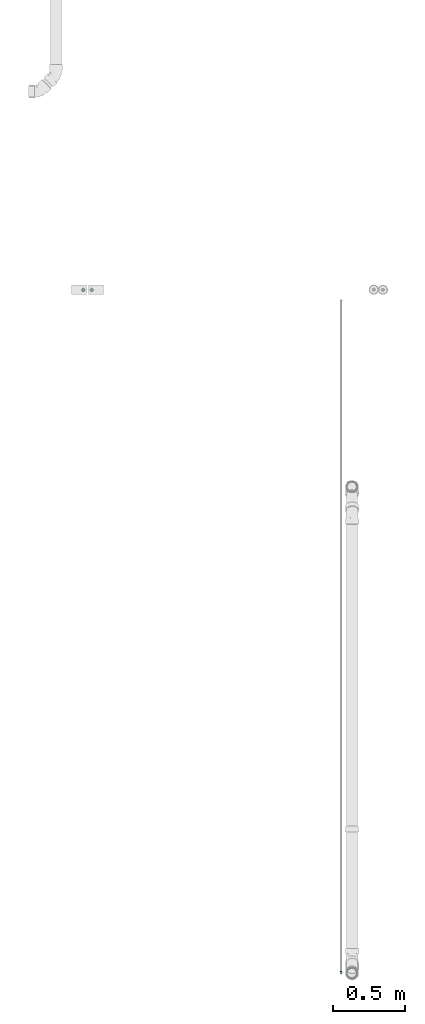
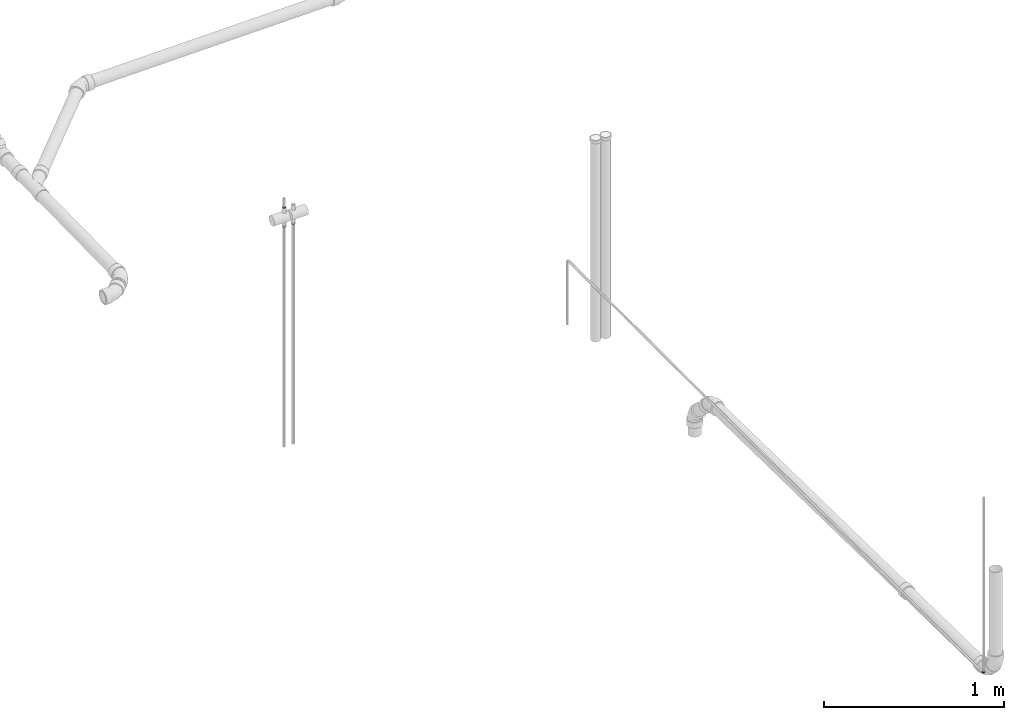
# One storey, part 9 of 18: 4 flow fittings.
"""IFC2X3 building model written with IfcOpenShell, lengths in millimetres."""

from ifc_helpers import new_model, entity, si_unit, converted_unit, derived_unit, direction, frame, origin_with_axes, place, context, subcontext, project, spatial, open_shell, surface_model, source, transform, mapped, type_object, element, save


model = new_model("IFC2X3")

# Units and contexts
model_context = context("Model", 3, precision=0.01, world=frame((0.0, 4.29681676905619e-09, 0.0)), true_north=direction((4.01073788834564e-13, 1.0)))
plan_context = context("Plan", 3, precision=0.01, world=frame((0.0, 4.29681676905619e-09, 0.0)), true_north=direction((4.01073788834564e-13, 1.0)))
body_context = subcontext(model_context, "Body", "Model", "MODEL_VIEW")
ifc_project = project(units=[converted_unit("PLANEANGLEUNIT", "DEGREE", entity("IfcPositiveLengthMeasure", 0.0174532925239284), si_unit("PLANEANGLEUNIT", "RADIAN"), dimensions=[0, 0, 0, 0, 0, 0, 0]), si_unit("AREAUNIT", "SQUARE_METRE"), si_unit("LENGTHUNIT", "METRE", prefix="MILLI"), si_unit("MASSUNIT", "GRAM", prefix="KILO"), si_unit("POWERUNIT", "WATT"), si_unit("PRESSUREUNIT", "PASCAL", prefix="KILO"), si_unit("FORCEUNIT", "NEWTON", prefix="KILO"), si_unit("ELECTRICVOLTAGEUNIT", "VOLT"), si_unit("ELECTRICCURRENTUNIT", "AMPERE"), si_unit("THERMODYNAMICTEMPERATUREUNIT", "DEGREE_CELSIUS"), si_unit("TIMEUNIT", "SECOND"), si_unit("VOLUMEUNIT", "CUBIC_METRE"), derived_unit("LINEARVELOCITYUNIT", [(si_unit("LENGTHUNIT", "METRE"), 1), (si_unit("TIMEUNIT", "SECOND"), -1)]), derived_unit("VOLUMETRICFLOWRATEUNIT", [(si_unit("VOLUMEUNIT", "CUBIC_METRE"), 1), (si_unit("TIMEUNIT", "SECOND"), -1)]), derived_unit("THERMALTRANSMITTANCEUNIT", [(si_unit("POWERUNIT", "WATT"), 1), (si_unit("THERMODYNAMICTEMPERATUREUNIT", "KELVIN"), -1), (si_unit("AREAUNIT", "SQUARE_METRE"), -1)]), derived_unit("SOUNDPRESSUREUNIT", [(si_unit("PRESSUREUNIT", "PASCAL"), 1)])], contexts=[model_context, plan_context])

# Site, building, storey
site_placement = place(None, frame((0.0, -4.29681676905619e-09, 0.0), z_axis=(0.0, 0.0, 1.0), x_axis=(1.0, 0.0, 0.0)))
site = spatial("IfcSite", under=ifc_project, at=site_placement, Name="ENGM", CompositionType="ELEMENT")
building_placement = place(site_placement, frame((0.0, 4.29681676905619e-09, 0.0), z_axis=(0.0, 0.0, 1.0), x_axis=(1.0, 0.0, 0.0)))
building = spatial("IfcBuilding", under=site, at=building_placement, Name="TI", CompositionType="ELEMENT")
storey_placement = place(building_placement, frame((0.0, 0.0, 204000.0), z_axis=(0.0, 0.0, 1.0), x_axis=(1.0, 0.0, 0.0)))
storey = spatial("IfcBuildingStorey", under=building, at=storey_placement, Name="Nivå D", CompositionType="ELEMENT", Elevation=204000.0)

# Flow fittings
pipe_fitting_type_1 = type_object("IfcPipeFittingType", Name="magi_pipe_cu_elbow_short_001", PredefinedType="BEND")
shared_shape_1 = source(origin_with_axes(), body_context, "Body", "SurfaceModel", [
    surface_model("IfcShellBasedSurfaceModel", [(-15.0, 0.0, -7.5), (-15.0, -6.49519, -3.75), (-15.0, 1.94114, -7.24444), (-15.0, 3.75, -6.49519), (-15.0, 5.3033, -5.3033), (-15.0, 7.24444, -1.94114), (-15.0, 6.49519, -3.75), (-15.0, -5.3033, -5.3033), (-15.0, -3.75, -6.49519), (-15.0, -1.94114, -7.24444), (-15.0, -7.24444, -1.94114), (-15.0, -7.5, 0.0), (-15.0, -6.49519, 3.75), (-15.0, 7.24444, 1.94114), (-15.0, 6.49519, 3.75), (-15.0, 3.75, 6.49519), (-15.0, 1.94114, 7.24444), (-15.0, 5.3033, 5.3033), (-15.0, -5.3033, 5.3033), (-15.0, -7.24444, 1.94114), (-15.0, -1.94114, 7.24444), (-15.0, 0.0, 7.5), (-15.0, -3.75, 6.49519), (-15.0, 7.5, 0.0), (-1.94114, 15.0, -7.24444), (6.49519, 15.0, -3.75), (0.0, 15.0, -7.5), (-5.3033, 15.0, -5.3033), (-3.75, 15.0, -6.49519), (-6.49519, 15.0, -3.75), (-7.24444, 15.0, -1.94114), (3.75, 15.0, -6.49519), (5.3033, 15.0, -5.3033), (1.94114, 15.0, -7.24444), (7.5, 15.0, 0.0), (7.24444, 15.0, -1.94114), (-7.5, 15.0, 0.0), (-7.24444, 15.0, 1.94114), (-6.49519, 15.0, 3.75), (-3.75, 15.0, 6.49519), (-1.94114, 15.0, 7.24444), (-5.3033, 15.0, 5.3033), (5.3033, 15.0, 5.3033), (6.49519, 15.0, 3.75), (7.24444, 15.0, 1.94114), (3.75, 15.0, 6.49519), (0.0, 15.0, 7.5), (1.94114, 15.0, 7.24444), (-13.40845, -7.07355, 0.0), (-8.7589, -2.47707, 6.60232), (-8.6338, -5.79418, 0.0), (-3.75, -4.48557, 0.0), (0.36779, -0.36779, 0.0), (2.42668, 1.69111, 0.0), (-2.25176, 0.98822, 6.3797), (-1.69111, -2.42668, 0.0), (-11.8169, -6.64709, 0.0), (-5.9304, 5.9304, 7.17811), (-4.11647, 8.02676, 7.20749), (2.47708, 8.7589, 6.60232), (1.67739, 4.87408, 5.99192), (4.48557, 3.75, 0.0), (-4.78013, -1.73268, 5.91836), (7.07355, 13.40845, 0.0), (6.64709, 11.8169, 0.0), (-8.02675, 4.11647, 7.20749), (-8.59835, 12.34835, 0.0), (-12.34835, 8.59835, 0.0), (-9.6967, 9.6967, 0.0), (5.79418, 8.6338, 0.0), (-8.7589, -2.47707, -6.60232), (-4.11647, 8.02676, -7.20749), (0.71542, 3.43733, -5.99192), (-2.23993, 1.78364, -6.69976), (2.47708, 8.7589, -6.60232), (-11.39207, 6.08032, -5.22727), (-7.08629, 1.82323, -7.49084), (-8.19523, 6.76007, -6.13545)], [open_shell([[[0, 1, 2]], [[3, 2, 4]], [[5, 6, 4]], [[4, 2, 1]], [[5, 4, 1]], [[7, 1, 8]], [[9, 8, 1]], [[10, 11, 1]], [[0, 9, 1]], [[11, 12, 1]], [[12, 5, 1]], [[13, 5, 12]], [[14, 13, 15]], [[13, 16, 15]], [[17, 14, 15]], [[16, 13, 12]], [[12, 18, 16]], [[12, 11, 19]], [[20, 21, 22]], [[18, 22, 21]], [[16, 18, 21]], [[13, 23, 5]], [[24, 25, 26]], [[27, 24, 28]], [[27, 29, 30]], [[25, 24, 27]], [[25, 27, 30]], [[31, 25, 32]], [[25, 31, 33]], [[25, 34, 35]], [[25, 33, 26]], [[30, 34, 25]], [[30, 36, 34]], [[36, 37, 38]], [[36, 38, 39]], [[40, 34, 39]], [[39, 38, 41]], [[40, 42, 34]], [[42, 43, 34]], [[44, 34, 43]], [[45, 46, 47]], [[45, 42, 40]], [[45, 40, 46]], [[39, 34, 36]], [[19, 48, 12]], [[49, 50, 51]], [[52, 53, 54]], [[54, 55, 52]], [[22, 18, 56]], [[12, 56, 18]], [[57, 54, 58]], [[22, 50, 20]], [[21, 20, 50]], [[59, 60, 61]], [[59, 58, 60]], [[55, 54, 62]], [[21, 50, 49]], [[21, 49, 16]], [[62, 49, 51]], [[62, 51, 55]], [[43, 63, 44]], [[49, 15, 16]], [[64, 63, 43]], [[13, 65, 23]], [[14, 17, 49]], [[54, 65, 62]], [[15, 49, 17]], [[57, 58, 66]], [[67, 57, 68]], [[53, 60, 54]], [[47, 46, 69]], [[69, 45, 47]], [[41, 59, 39]], [[40, 59, 46]], [[42, 45, 64]], [[54, 60, 58]], [[64, 45, 69]], [[61, 60, 53]], [[44, 63, 34]], [[59, 61, 69]], [[58, 36, 66]], [[22, 56, 50]], [[54, 57, 65]], [[49, 65, 14]], [[37, 36, 58]], [[64, 43, 42]], [[38, 37, 58]], [[14, 65, 13]], [[41, 38, 59]], [[19, 11, 48]], [[38, 58, 59]], [[48, 56, 12]], [[39, 59, 40]], [[59, 69, 46]], [[49, 62, 65]], [[57, 67, 65]], [[66, 68, 57]], [[67, 23, 65]], [[70, 50, 0]], [[71, 72, 73]], [[74, 71, 29]], [[70, 2, 3]], [[70, 51, 50]], [[35, 34, 63]], [[75, 4, 6]], [[75, 5, 23]], [[6, 5, 75]], [[51, 76, 55]], [[75, 23, 67]], [[70, 4, 75]], [[48, 11, 10]], [[8, 56, 7]], [[0, 50, 9]], [[51, 70, 76]], [[56, 8, 50]], [[8, 9, 50]], [[70, 0, 2]], [[66, 36, 71]], [[52, 72, 53]], [[4, 70, 3]], [[70, 75, 76]], [[73, 52, 55]], [[71, 68, 66]], [[61, 53, 72]], [[31, 64, 69]], [[30, 71, 36]], [[27, 74, 29]], [[56, 1, 7]], [[28, 24, 74]], [[63, 64, 25]], [[56, 48, 1]], [[28, 74, 27]], [[1, 48, 10]], [[26, 74, 24]], [[33, 69, 26]], [[29, 71, 30]], [[32, 64, 31]], [[69, 33, 31]], [[68, 71, 77]], [[74, 26, 69]], [[25, 35, 63]], [[61, 72, 74]], [[61, 74, 69]], [[67, 77, 75]], [[74, 72, 71]], [[25, 64, 32]], [[76, 77, 73]], [[75, 77, 76]], [[77, 71, 73]], [[55, 76, 73]], [[72, 52, 73]], [[77, 67, 68]]])]),
])
flow_fitting_placement = place(storey_placement, frame((592944.82673, 570282.17632, 6340.0), z_axis=(-1.0, 0.0, 0.0), x_axis=(0.0, -1.0, 0.0)))
element("IfcFlowFitting", 1, at=flow_fitting_placement, inside=storey, type_object=pipe_fitting_type_1, Name="magi_pipe_cu_elbow_short_001", context=body_context, shape_type="MappedRepresentation", body=[
    mapped(shared_shape_1, transform((0.0, 0.0, 0.0), scale=1.0)),
])
pipe_fitting_type_2 = type_object("IfcPipeFittingType", Name="magi_pipe_cu_reducer_centric_short_001", PredefinedType="TRANSITION")
shared_shape_2 = source(origin_with_axes(), body_context, "Body", "SurfaceModel", [
    surface_model("IfcShellBasedSurfaceModel", [(-2.0, -2.58819, 9.65926), (-2.0, -7.07107, 7.07107), (-2.0, -5.0, 8.66025), (-2.0, 8.66025, 5.0), (-2.0, 9.65926, 2.58819), (-2.0, 10.0, 0.0), (-2.0, 9.65926, -2.58819), (-2.0, 8.66025, -5.0), (-2.0, -9.65926, -2.58819), (-2.0, -7.07107, -7.07107), (-2.0, -8.66025, -5.0), (0.0, -7.07107, -7.07107), (0.0, -9.65926, -2.58819), (0.0, -8.66025, -5.0), (0.0, 8.66025, 5.0), (0.0, 10.0, 0.0), (0.0, 9.65926, 2.58819), (-2.0, -10.0, 0.0), (0.0, -5.0, -8.66025), (-2.0, -5.0, -8.66025), (0.0, -2.58819, -9.65926), (-2.0, -2.58819, -9.65926), (0.0, -10.0, 0.0), (0.0, 0.0, -10.0), (-2.0, 0.0, -10.0), (-2.0, 2.58819, -9.65926), (0.0, 2.58819, -9.65926), (-2.0, 5.0, -8.66025), (0.0, 5.0, -8.66025), (0.0, 8.66025, -5.0), (-2.0, 7.07107, -7.07107), (0.0, 7.07107, -7.07107), (0.0, 9.65926, -2.58819), (0.0, 5.0, 8.66025), (-2.0, 7.07107, 7.07107), (-2.0, 5.0, 8.66025), (0.0, 7.07107, 7.07107), (0.0, 2.58819, 9.65926), (-2.0, 2.58819, 9.65926), (0.0, 0.0, 10.0), (-2.0, 0.0, 10.0), (0.0, -2.58819, 9.65926), (0.0, -5.0, 8.66025), (0.0, -8.66025, 5.0), (-2.0, -8.66025, 5.0), (0.0, -7.07107, 7.07107), (0.0, -9.65926, 2.58819), (-2.0, -9.65926, 2.58819), (4.0, 4.5, -7.79423), (4.0, -6.36396, -6.36396), (4.0, 2.32937, -8.69333), (4.0, 8.69333, -2.32937), (4.0, 6.36396, -6.36396), (4.0, 7.79423, -4.5), (4.0, 7.79423, 4.5), (4.0, -8.69333, -2.32937), (4.0, 0.0, -9.0), (4.0, -4.5, -7.79423), (4.0, -2.32937, -8.69333), (4.0, -7.79423, -4.5), (4.0, 9.0, 0.0), (4.0, 8.69333, 2.32937), (4.0, -9.0, 0.0), (4.0, 0.0, 9.0), (4.0, 6.36396, 6.36396), (4.0, 4.5, 7.79423), (4.0, 2.32937, 8.69333), (4.0, -6.36396, 6.36396), (4.0, -8.69333, 2.32937), (4.0, -7.79423, 4.5), (4.0, -2.32937, 8.69333), (4.0, -4.5, 7.79423), (2.0, 0.0, 9.0), (2.0, 2.32937, 8.69333), (2.0, 4.5, 7.79423), (2.0, 6.36396, 6.36396), (2.0, -9.0, 0.0), (2.0, -8.69333, -2.32937), (2.0, 7.79423, 4.5), (2.0, -2.32937, 8.69333), (2.0, -6.36396, 6.36396), (2.0, -4.5, 7.79423), (2.0, -8.69333, 2.32937), (2.0, -7.79423, 4.5), (2.0, 8.69333, 2.32937), (2.0, 8.69333, -2.32937), (2.0, 6.36396, -6.36396), (2.0, 7.79423, -4.5), (2.0, 4.5, -7.79423), (2.0, 2.32937, -8.69333), (2.0, -4.5, -7.79423), (2.0, -6.36396, -6.36396), (2.0, -7.79423, -4.5), (2.0, 0.0, -9.0), (2.0, -2.32937, -8.69333), (2.0, 9.0, 0.0)], [open_shell([[[0, 1, 2]], [[3, 4, 5]], [[5, 6, 7]], [[8, 9, 10]], [[5, 7, 3]], [[11, 12, 13]], [[14, 15, 16]], [[8, 12, 17]], [[10, 13, 8]], [[18, 9, 19]], [[10, 9, 11]], [[20, 19, 21]], [[8, 13, 12]], [[12, 22, 17]], [[20, 18, 19]], [[11, 9, 18]], [[11, 13, 10]], [[23, 20, 21]], [[21, 24, 23]], [[25, 26, 24]], [[27, 28, 25]], [[29, 30, 7]], [[27, 30, 31]], [[32, 7, 6]], [[27, 31, 28]], [[28, 26, 25]], [[15, 32, 6]], [[29, 7, 32]], [[29, 31, 30]], [[5, 15, 6]], [[24, 26, 23]], [[4, 16, 5]], [[3, 14, 4]], [[33, 34, 35]], [[3, 34, 36]], [[37, 35, 38]], [[4, 14, 16]], [[16, 15, 5]], [[37, 33, 35]], [[36, 34, 33]], [[36, 14, 3]], [[39, 37, 38]], [[38, 40, 39]], [[0, 41, 40]], [[2, 42, 0]], [[43, 1, 44]], [[2, 1, 45]], [[46, 44, 47]], [[2, 45, 42]], [[42, 41, 0]], [[22, 46, 47]], [[43, 44, 46]], [[43, 45, 1]], [[17, 22, 47]], [[40, 41, 39]], [[38, 44, 40]], [[35, 8, 38]], [[30, 34, 3]], [[35, 34, 8]], [[38, 8, 47]], [[1, 0, 44]], [[38, 47, 44]], [[44, 0, 40]], [[8, 17, 47]], [[7, 30, 3]], [[34, 27, 19]], [[34, 30, 27]], [[24, 27, 25]], [[9, 8, 19]], [[19, 24, 21]], [[8, 34, 19]], [[27, 24, 19]], [[28, 23, 26]], [[22, 23, 28]], [[14, 29, 32]], [[36, 28, 31]], [[14, 31, 29]], [[23, 18, 20]], [[18, 23, 22]], [[12, 11, 18]], [[18, 22, 12]], [[14, 32, 15]], [[14, 36, 31]], [[28, 36, 46]], [[46, 36, 37]], [[37, 36, 33]], [[43, 37, 39]], [[37, 43, 46]], [[22, 28, 46]], [[45, 41, 42]], [[41, 45, 43]], [[41, 43, 39]], [[48, 49, 50]], [[51, 48, 52]], [[49, 48, 51]], [[51, 52, 53]], [[54, 55, 51]], [[56, 57, 58]], [[57, 56, 49]], [[49, 55, 59]], [[49, 56, 50]], [[51, 55, 49]], [[51, 60, 61]], [[62, 55, 54]], [[63, 54, 64]], [[65, 66, 63]], [[65, 63, 64]], [[67, 54, 63]], [[68, 67, 69]], [[67, 68, 62]], [[67, 70, 71]], [[67, 62, 54]], [[63, 70, 67]], [[54, 51, 61]], [[72, 73, 74]], [[72, 74, 75]], [[76, 72, 77]], [[78, 72, 75]], [[78, 77, 72]], [[79, 80, 81]], [[79, 72, 80]], [[80, 82, 83]], [[82, 80, 76]], [[72, 76, 80]], [[78, 84, 85]], [[77, 78, 85]], [[86, 85, 87]], [[85, 88, 77]], [[88, 85, 86]], [[89, 90, 88]], [[77, 91, 92]], [[77, 88, 91]], [[90, 93, 94]], [[90, 91, 88]], [[93, 90, 89]], [[85, 84, 95]], [[77, 55, 76]], [[92, 59, 77]], [[57, 91, 90]], [[92, 91, 49]], [[58, 90, 94]], [[77, 59, 55]], [[55, 62, 76]], [[58, 57, 90]], [[49, 91, 57]], [[49, 59, 92]], [[56, 58, 94]], [[94, 93, 56]], [[89, 50, 93]], [[88, 48, 89]], [[53, 86, 87]], [[88, 86, 52]], [[51, 87, 85]], [[88, 52, 48]], [[48, 50, 89]], [[60, 51, 85]], [[53, 87, 51]], [[53, 52, 86]], [[95, 60, 85]], [[93, 50, 56]], [[84, 61, 95]], [[78, 54, 84]], [[65, 75, 74]], [[78, 75, 64]], [[66, 74, 73]], [[84, 54, 61]], [[61, 60, 95]], [[66, 65, 74]], [[64, 75, 65]], [[64, 54, 78]], [[63, 66, 73]], [[73, 72, 63]], [[79, 70, 72]], [[81, 71, 79]], [[69, 80, 83]], [[81, 80, 67]], [[68, 83, 82]], [[81, 67, 71]], [[71, 70, 79]], [[62, 68, 82]], [[69, 83, 68]], [[69, 67, 80]], [[76, 62, 82]], [[72, 70, 63]], [[74, 81, 95]], [[95, 81, 90]], [[90, 88, 95]], [[90, 81, 76]], [[33, 22, 42]], [[22, 33, 28]], [[28, 18, 22]], [[28, 33, 15]], [[95, 88, 15]], [[28, 15, 88]], [[88, 90, 28]], [[90, 76, 18]], [[22, 18, 76]], [[90, 18, 28]], [[76, 81, 22]], [[42, 22, 81]], [[81, 74, 42]], [[74, 95, 33]], [[15, 33, 95]], [[74, 33, 42]]])]),
])
for number, where, z_axis, x_axis, name in (
    (2, (591223.82673, 574995.92031, 7145.24650000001), (-1.0, 0.0, 0.0), (0.0, 0.0, -1.0), "magi_pipe_cu_reducer_centric_short_001"),
    (3, (591165.27303, 574995.92031, 7145.24650000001), (1.0, 0.0, 0.0), (0.0, 0.0, -1.0), "magi_pipe_cu_reducer_centric_short_001"),
    (4, (591165.27303, 574995.92031, 7275.24650000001), (0.0, 1.0, 0.0), (0.0, 0.0, 1.0), "magi_pipe_cu_reducer_centric_short_001"),
):
    element("IfcFlowFitting", number, at=place(storey_placement, frame(where, z_axis=z_axis, x_axis=x_axis)), inside=storey, type_object=pipe_fitting_type_2, Name=name, context=body_context, shape_type="MappedRepresentation", body=[
        mapped(shared_shape_2, transform((0.0, 0.0, 0.0), scale=1.0)),
    ])

save(model, "model.ifc")
